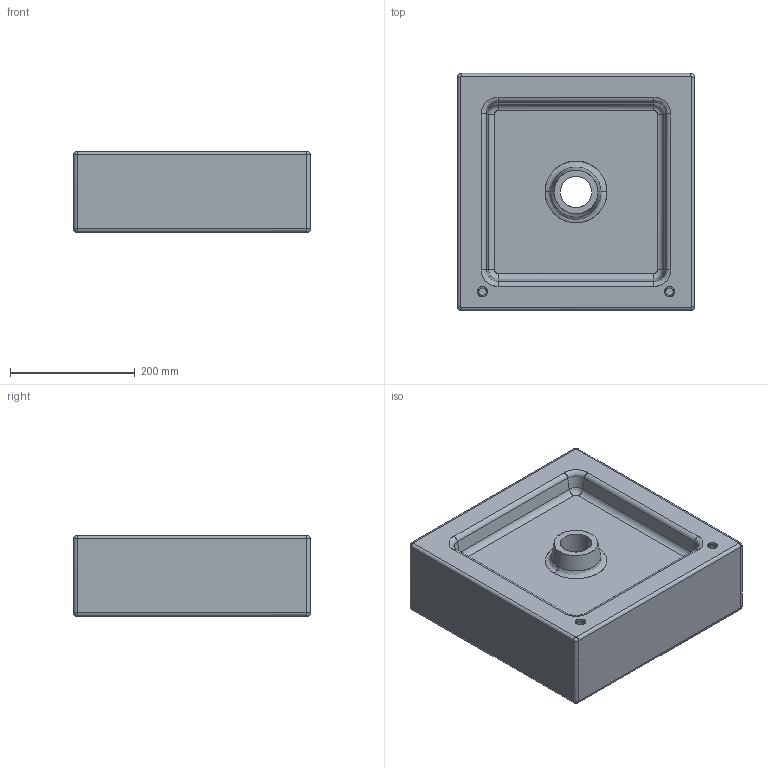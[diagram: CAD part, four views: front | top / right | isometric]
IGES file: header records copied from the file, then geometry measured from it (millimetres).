
Start section: Comment
Global section: file name: Teorema 40.igs; native system:  By UGS Corp.; preprocessor: XPlus GENERIC/IGES 3.0; author: Author; organization: Title; date: 20100623.095652; units: millimetre
Bounding box: 380 x 380 x 130 mm (x, y, z)
Surface area: 583139.8 mm2 (no closed solid volume)
Topology: 0 solids, 0 shells, 97 faces, 416 edges, 408 vertices
Faces by surface type: bspline 97
